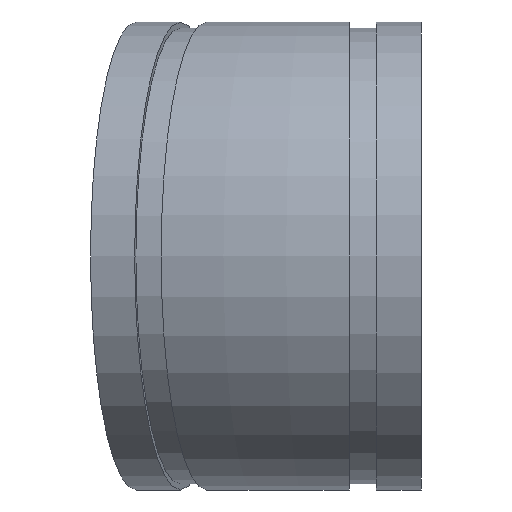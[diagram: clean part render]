
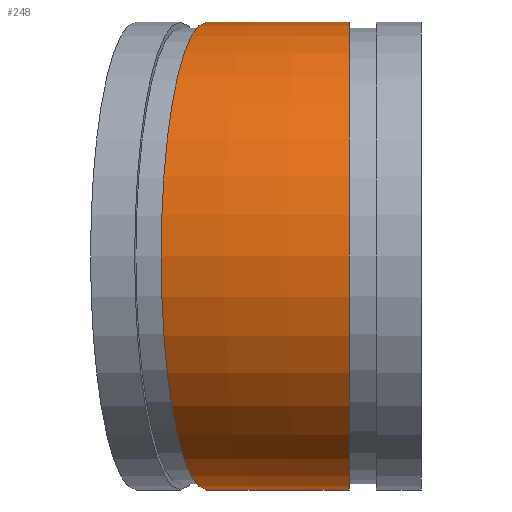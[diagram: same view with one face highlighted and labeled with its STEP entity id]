
A CAD part, left-side view. The second image highlights one B-rep face of the part: STEP entity #248.
In plain terms, the highlighted toroidal (fillet/blend) face has major radius 257.89 mm and minor radius 82.55 mm.
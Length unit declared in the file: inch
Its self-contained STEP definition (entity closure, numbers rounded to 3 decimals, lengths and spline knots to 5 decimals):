
#15=TOROIDAL_SURFACE('',#303,10.15317,3.25);
#47=FACE_OUTER_BOUND('',#65,.T.);
#65=EDGE_LOOP('',(#190,#191,#192,#193,#194,#195));
#79=CIRCLE('',#283,3.25);
#80=CIRCLE('',#284,3.25);
#86=CIRCLE('',#293,3.25);
#87=CIRCLE('',#294,3.25);
#95=CIRCLE('',#304,6.90317);
#105=VERTEX_POINT('',#418);
#106=VERTEX_POINT('',#419);
#112=VERTEX_POINT('',#436);
#113=VERTEX_POINT('',#437);
#130=EDGE_CURVE('',#105,#106,#79,.T.);
#131=EDGE_CURVE('',#106,#105,#80,.T.);
#138=EDGE_CURVE('',#112,#113,#86,.T.);
#139=EDGE_CURVE('',#113,#112,#87,.T.);
#147=EDGE_CURVE('',#113,#106,#95,.T.);
#190=ORIENTED_EDGE('',*,*,#138,.T.);
#191=ORIENTED_EDGE('',*,*,#147,.T.);
#192=ORIENTED_EDGE('',*,*,#131,.T.);
#193=ORIENTED_EDGE('',*,*,#130,.T.);
#194=ORIENTED_EDGE('',*,*,#147,.F.);
#195=ORIENTED_EDGE('',*,*,#139,.T.);
#248=ADVANCED_FACE('',(#47),#15,.T.);
#283=AXIS2_PLACEMENT_3D('',#420,#334,#335);
#284=AXIS2_PLACEMENT_3D('',#421,#336,#337);
#293=AXIS2_PLACEMENT_3D('',#438,#355,#356);
#294=AXIS2_PLACEMENT_3D('',#439,#357,#358);
#303=AXIS2_PLACEMENT_3D('',#454,#375,#376);
#304=AXIS2_PLACEMENT_3D('',#455,#377,#378);
#334=DIRECTION('center_axis',(0.,1.,0.));
#335=DIRECTION('ref_axis',(1.,0.,0.));
#336=DIRECTION('center_axis',(0.,1.,0.));
#337=DIRECTION('ref_axis',(1.,0.,0.));
#355=DIRECTION('center_axis',(-0.195,-0.981,0.));
#356=DIRECTION('ref_axis',(0.981,-0.195,0.));
#357=DIRECTION('center_axis',(-0.195,-0.981,0.));
#358=DIRECTION('ref_axis',(0.981,-0.195,0.));
#375=DIRECTION('center_axis',(0.,0.,-1.));
#376=DIRECTION('ref_axis',(-1.,0.,0.));
#377=DIRECTION('center_axis',(0.,0.,1.));
#378=DIRECTION('ref_axis',(-1.,0.,0.));
#418=CARTESIAN_POINT('',(0.,1.,3.25));
#419=CARTESIAN_POINT('',(3.25,1.,0.));
#420=CARTESIAN_POINT('Origin',(0.,1.,0.));
#421=CARTESIAN_POINT('Origin',(0.,1.,0.));
#436=CARTESIAN_POINT('',(0.19509,2.98079,3.25));
#437=CARTESIAN_POINT('',(3.38264,2.34674,0.));
#438=CARTESIAN_POINT('Origin',(0.19509,2.98079,0.));
#439=CARTESIAN_POINT('Origin',(0.19509,2.98079,0.));
#454=CARTESIAN_POINT('Origin',(10.15317,1.,0.));
#455=CARTESIAN_POINT('Origin',(10.15317,1.,0.));
